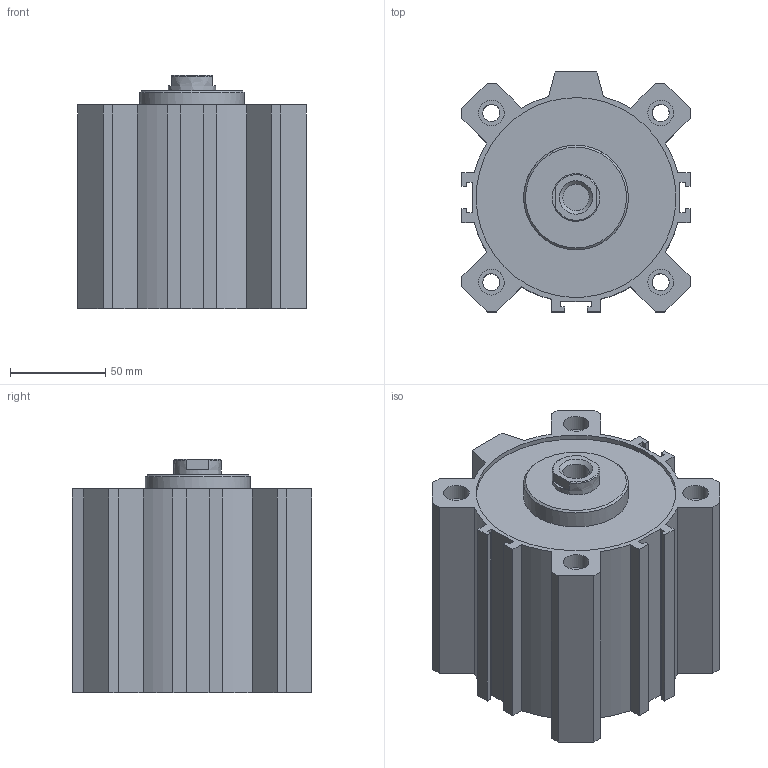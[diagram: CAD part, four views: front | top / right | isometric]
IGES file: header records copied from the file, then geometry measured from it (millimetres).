
Global section: file name: 1511_100_0055; native system: Autodesk Inventor 2014; preprocessor: unknown; author: A. Manieri; date: 20160824.162628; units: millimetre
Bounding box: 120 x 126 x 122.5 mm (x, y, z)
Volume: 840529.9 mm3; surface area: 175451.1 mm2
Topology: 2 solids, 2 shells, 119 faces, 307 edges, 210 vertices
Faces by surface type: bspline 119
